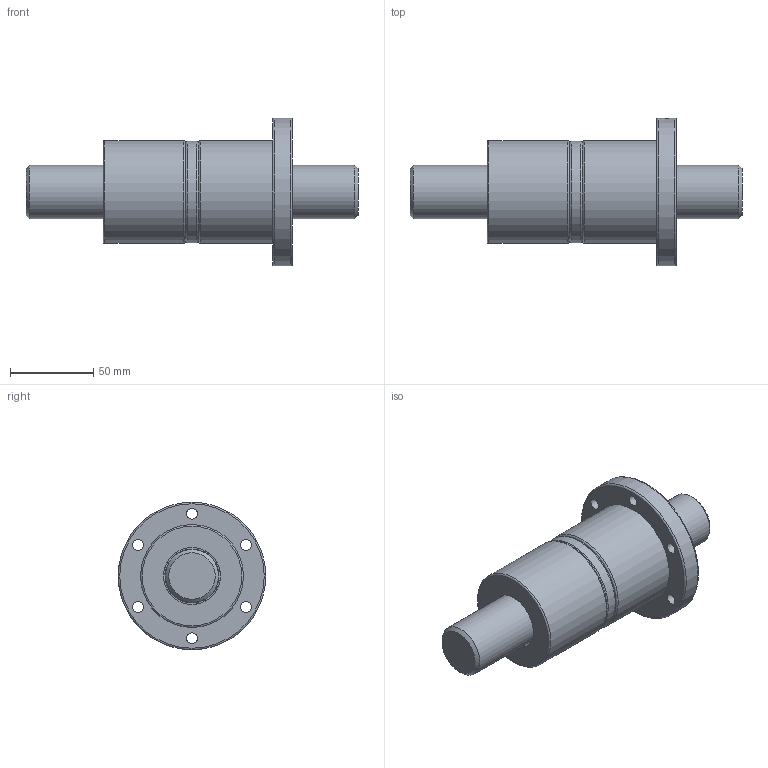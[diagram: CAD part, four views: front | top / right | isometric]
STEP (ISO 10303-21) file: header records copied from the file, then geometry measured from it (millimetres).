
FILE_DESCRIPTION(/* description */ ('Unknown','CAx-IF Rec.Pracs.---Representation and Presentation of Product Manufacturing Information (PMI)---4.0---2014-10-13','CAx-IF Rec.Pracs.---3D Tessellated Geometry---0.4---2014-09-14','2;1'),/* implementation_level */ '2;1');
FILE_NAME(/* name */ 'DFV03206',/* time_stamp */ '2020-12-08T12:05:05+08:00',/* author */ ('Unknown'),/* organization */ ('Unknown'),/* preprocessor_version */ 'ST-DEVELOPER v16.7',/* originating_system */ 'Solid Edge',/* authorisation */ 'Unknown');
FILE_SCHEMA (('AP242_MANAGED_MODEL_BASED_3D_ENGINEERING_MIM_LF { 1 0 10303 442 1 1 4 }'));
Length unit declared in the file: millimetre
Products named in the file (1): DFV03206
Bounding box: 200 x 89 x 89 mm (x, y, z)
Volume: 428680.1 mm3; surface area: 71711 mm2
Topology: 2 solids, 2 shells, 58 faces, 117 edges, 75 vertices
Faces by surface type: cylinder 27, plane 19, torus 7, cone 3, bspline 2
Full cylindrical faces by diameter (mm): 4 x1, 6.6 x6, 6.917 x1, 11 x6, 32 x1, 32.5 x1, 34.3 x2, 38 x1, 42 x2, 61 x1, 62 x2, 89 x1
Entity records: 3216 total; most frequent: CARTESIAN_POINT 2061, DIRECTION 242, ORIENTED_EDGE 148, EDGE_LOOP 121, FACE_BOUND 121, AXIS2_PLACEMENT_3D 121, EDGE_CURVE 74, VERTEX_POINT 67
